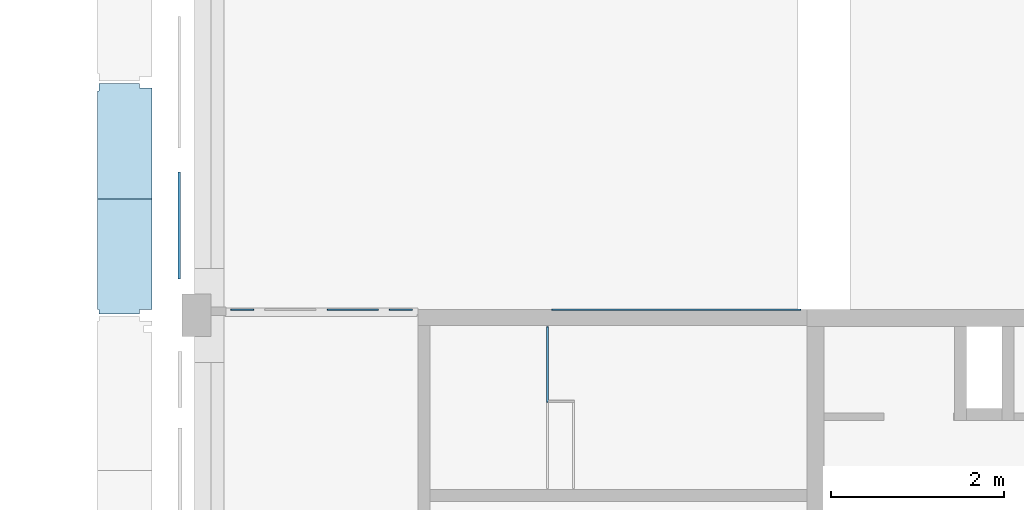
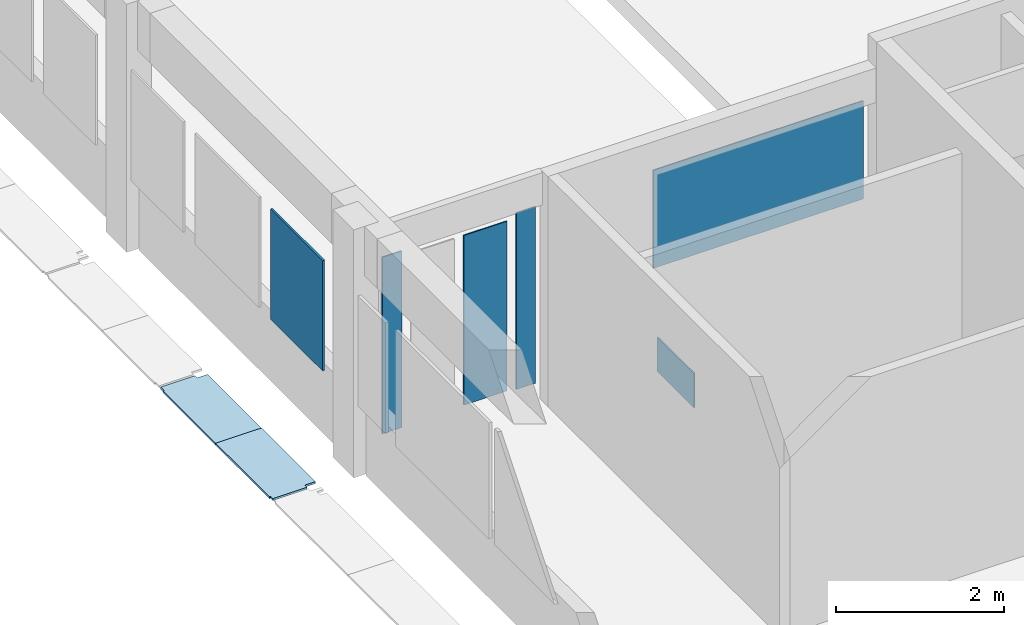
# One storey, part 5 of 30: 5 plates, 3 slabs.
"""IFC4X3_ADD2 building model written with IfcOpenShell, lengths in millimetres."""

from ifc_helpers import new_model, si_unit, direction, frame, frame_2d, origin_with_axes, origin_2d_with_axis, place, context, subcontext, project, spatial, polyline, rectangle, outline, extrude, source, transform, mapped, material, type_object, element, save


model = new_model("IFC4X3_ADD2")

# Units and contexts
model_context = context("Model", 3, precision=1e-05, world=origin_with_axes(), true_north=direction((0.0, 1.0)))
body_context = subcontext(model_context, "Body", "Model", "MODEL_VIEW")
ifc_project = project(units=[si_unit("LENGTHUNIT", "METRE", prefix="MILLI"), si_unit("AREAUNIT", "SQUARE_METRE"), si_unit("VOLUMEUNIT", "CUBIC_METRE"), si_unit("PLANEANGLEUNIT", "RADIAN"), si_unit("TIMEUNIT", "SECOND"), si_unit("MASSUNIT", "GRAM")], contexts=[model_context])

# Site, building, storey
site_placement = place(None, origin_with_axes())
site = spatial("IfcSite", under=ifc_project, at=site_placement, Name="Site", CompositionType="ELEMENT")
building_placement = place(site_placement, origin_with_axes())
building = spatial("IfcBuilding", under=site, at=building_placement, Name="IFC Building Story")
storey_placement = place(building_placement, origin_with_axes())
storey = spatial("IfcBuildingStorey", under=building, at=storey_placement, Name="000", Elevation=0.0)

# Plates
ifc_material_1 = material(Name="BB_Glas")
shared_shape_1 = source(origin_with_axes(), body_context, "Body", "SweptSolid", [
    extrude(rectangle(XDim=1602.000000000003, YDim=1242.000000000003, at=frame_2d((0.0, 0.0), x_axis=(0.0, 1.0))), frame((0.0, 0.0, -28.0), z_axis=(0.0, 0.0, 1.0), x_axis=(1.0, 0.0, 0.0)), (0.0, 0.0, 1.0), 28.0),
])
plate_1_placement = place(storey_placement, frame((-50987.4999999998, 13670.0, 1765.0), z_axis=(-1.0, 0.0, 0.0), x_axis=(0.0, -1.0, 0.0)))
element("IfcPlate", 1, at=plate_1_placement, inside=storey, material=ifc_material_1, Name="BB_07.06_Buitenbeglazing, rechthoekig_GMO:07.06.41#03_Dubbele beglazing RWA +0, 28 mm", ObjectType="BB_07.06_Buitenbeglazing, rechthoekig_GMO:07.06.41#03_Dubbele beglazing RWA +0, 28 mm", PredefinedType="USERDEFINED", context=body_context, shape_type="MappedRepresentation", body=[
    mapped(shared_shape_1, transform((0.0, 0.0, 0.0))),
])
shared_shape_2 = source(origin_with_axes(), body_context, "Body", "SweptSolid", [
    extrude(rectangle(XDim=2462.0, YDim=592.500000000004, at=frame_2d((0.0, 0.0), x_axis=(0.0, 1.0))), frame((0.0, 0.0, -17.0), z_axis=(0.0, 0.0, 1.0), x_axis=(1.0, 0.0, 0.0)), (0.0, 0.0, 1.0), 17.0),
])
plate_2_placement = place(storey_placement, frame((-48963.2499999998, 12703.0040658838, 1315.0), z_axis=(0.0, 1.0, 0.0), x_axis=(-1.0, 0.0, 0.0)))
element("IfcPlate", 2, at=plate_2_placement, inside=storey, material=ifc_material_1, Name="BB_10.10_Binnenbeglazing, rechthoekig_GMO:10.10.32#02_Enkelvoudige beglazing, 2B2, 40dB", ObjectType="BB_10.10_Binnenbeglazing, rechthoekig_GMO:10.10.32#02_Enkelvoudige beglazing, 2B2, 40dB", PredefinedType="USERDEFINED", context=body_context, shape_type="MappedRepresentation", body=[
    mapped(shared_shape_2, transform((0.0, 0.0, 0.0))),
])
shared_shape_3 = source(origin_with_axes(), body_context, "Body", "SweptSolid", [
    extrude(rectangle(XDim=2564.0, YDim=266.000000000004, at=frame_2d((0.0, 0.0), x_axis=(0.0, 1.0))), frame((0.0, 0.0, -17.0), z_axis=(0.0, 0.0, 1.0), x_axis=(1.0, 0.0, 0.0)), (0.0, 0.0, 1.0), 17.0),
])
for number, where, z_axis, x_axis in (
    (3, (-48406.0, 12703.0040658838, 1340.0), (0.0, 1.0, 0.0), (-1.0, 0.0, 0.0)),
    (4, (-50244.0, 12703.0040658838, 1340.0), (0.0, 1.0, 0.0), (-1.0, 0.0, 0.0)),
):
    element("IfcPlate", number, at=place(storey_placement, frame(where, z_axis=z_axis, x_axis=x_axis)), inside=storey, material=ifc_material_1, Name="BB_10.10_Binnenbeglazing, rechthoekig_GMO:10.10.32#02_Enkelvoudige beglazing, 2B2, 40dB", ObjectType="BB_10.10_Binnenbeglazing, rechthoekig_GMO:10.10.32#02_Enkelvoudige beglazing, 2B2, 40dB", PredefinedType="USERDEFINED", context=body_context, shape_type="MappedRepresentation", body=[
        mapped(shared_shape_3, transform((0.0, 0.0, 0.0))),
    ])
shared_shape_4 = source(origin_with_axes(), body_context, "Body", "SweptSolid", [
    extrude(rectangle(XDim=2884.0, YDim=1424.000000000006, at=origin_2d_with_axis()), frame((0.0, 0.0, -17.0), z_axis=(0.0, 0.0, 1.0), x_axis=(1.0, 0.0, 0.0)), (0.0, 0.0, 1.0), 17.0),
])
plate_3_placement = place(storey_placement, frame((-45215.0, 12703.0040658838, 1870.0), z_axis=(0.0, 1.0, 0.0), x_axis=(-1.0, 0.0, 0.0)))
element("IfcPlate", 5, at=plate_3_placement, inside=storey, material=ifc_material_1, Name="BB_10.10_Binnenbeglazing, rechthoekig_GMO:10.10.32#02_Enkelvoudige beglazing, 2B2, 40dB", ObjectType="BB_10.10_Binnenbeglazing, rechthoekig_GMO:10.10.32#02_Enkelvoudige beglazing, 2B2, 40dB", PredefinedType="USERDEFINED", context=body_context, shape_type="MappedRepresentation", body=[
    mapped(shared_shape_4, transform((0.0, 0.0, 0.0))),
])

# Slabs
ifc_material_2 = material(Name="BB_09.08.21#03_Vloer_Verhoogd_Bestaande te verhogen")
slab_type_1 = type_object("IfcSlabType", Name="BB_09.08.21#03_Vloer_Verhoogd_Bestaande te verhogen 20", PredefinedType="FLOOR", material=ifc_material_2)
slab_1_placement = place(storey_placement, frame((-46715.0, 12495.0040658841, -200.0), z_axis=(-1.0, 0.0, 0.0), x_axis=(0.0, -1.0, 0.0)))
element("IfcSlab", 6, at=slab_1_placement, inside=storey, type_object=slab_type_1, Name="Basic Wall:BB_09.08.XX_Rand verhoogde vloer, 20 mm", ObjectType="Basic Wall:BB_09.08.XX_Rand verhoogde vloer, 20 mm", PredefinedType="FLOOR", context=body_context, shape_type="SweptSolid", body=[
    extrude(outline(polyline([(-434.9999999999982, 247.5), (435.0, 247.5), (435.0, -247.5), (-434.9999999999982, -247.5), (-434.9999999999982, 247.5)])), frame((434.9999999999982, 247.5, -20.0), z_axis=(0.0, 0.0, 1.0), x_axis=(1.0, 0.0, 0.0)), (0.0, 0.0, 1.0), 19.99999999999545),
])
ifc_material_3 = material(Name="Steel, Galvanized - looprooster")
slab_type_2 = type_object("IfcSlabType", Name="Steel, Galvanized - looprooster 30", PredefinedType="FLOOR", material=ifc_material_3)
slab_2_placement = place(storey_placement, frame((-51919.99797688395, 13979.99796376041, -350.0), z_axis=(0.0, 0.0, 1.0), x_axis=(0.0, -1.0, 0.0)))
element("IfcSlab", 7, at=slab_2_placement, inside=storey, type_object=slab_type_2, Name="Floor:GVH - Looprooster 30 mm", ObjectType="Floor:GVH - Looprooster 30 mm", PredefinedType="FLOOR", context=body_context, shape_type="SweptSolid", body=[
    extrude(outline(polyline([(359.7494499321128, -267.5006947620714), (307.7496502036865, -267.5006947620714), (307.7496502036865, -282.4989546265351), (-975.2485500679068, -282.4989546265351), (-975.2485500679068, 347.5010453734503), (307.7494499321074, 347.5010453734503), (307.7494499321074, 202.4986040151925), (359.7494499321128, 202.4986040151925), (359.7494499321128, -267.5006947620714)])), frame((975.2485500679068, 282.4989546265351, 0.0), z_axis=(0.0, 0.0, 1.0), x_axis=(1.0, 0.0, 0.0)), (0.0, 0.0, 1.0), 30.0),
])
slab_3_placement = place(storey_placement, frame((-51919.99797688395, 15314.99596376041, -350.0), z_axis=(0.0, 0.0, 1.0), x_axis=(0.0, -1.0, 0.0)))
element("IfcSlab", 8, at=slab_3_placement, inside=storey, type_object=slab_type_2, Name="Floor:GVH - Looprooster 30 mm", ObjectType="Floor:GVH - Looprooster 30 mm", PredefinedType="FLOOR", context=body_context, shape_type="SweptSolid", body=[
    extrude(outline(polyline([(-316.498500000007, 347.5010453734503), (966.4995000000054, 347.5010453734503), (966.4995000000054, -282.4989546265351), (-281.5024999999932, -282.4989546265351), (-281.5024999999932, -267.5006947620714), (-368.4985000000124, -267.5006947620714), (-368.4985000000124, 202.4986040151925), (-316.498500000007, 202.4986040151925), (-316.498500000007, 347.5010453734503)])), frame((368.4985000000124, 282.4989546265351, 0.0), z_axis=(0.0, 0.0, 1.0), x_axis=(1.0, 0.0, 0.0)), (0.0, 0.0, 1.0), 30.0),
])

save(model, "model.ifc")
